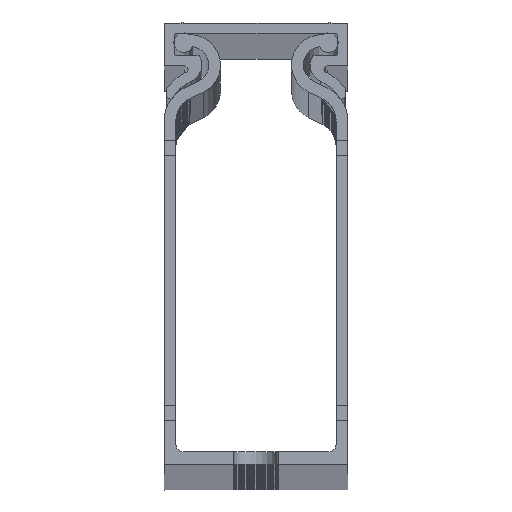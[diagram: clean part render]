
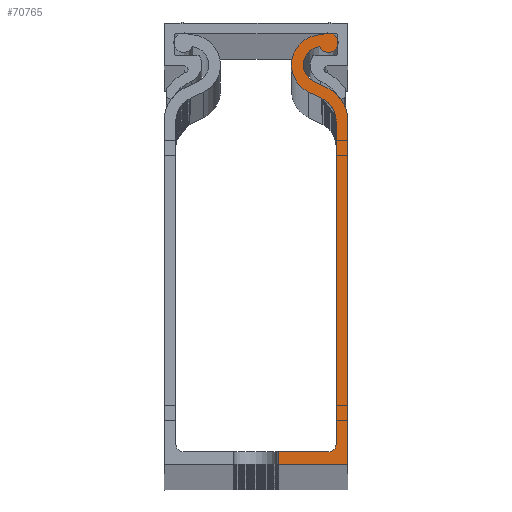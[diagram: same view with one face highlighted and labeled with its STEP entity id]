
A CAD part, top view. The second image highlights one B-rep face of the part: STEP entity #70765.
In plain terms, the highlighted planar face has unit normal (0, 0, 1).
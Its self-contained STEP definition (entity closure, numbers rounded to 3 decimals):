
#238 = DIRECTION ( 'NONE',  ( 1., 0., 0. ) ) ;
#1483 = AXIS2_PLACEMENT_3D ( 'NONE', #3519, #102852, #69095 ) ;
#1502 = VERTEX_POINT ( 'NONE', #23976 ) ;
#1551 = CARTESIAN_POINT ( 'NONE',  ( 2573.235, 1291.403, 2000. ) ) ;
#2018 = DIRECTION ( 'NONE',  ( 0.902, -0.431, 0. ) ) ;
#2724 = CARTESIAN_POINT ( 'NONE',  ( 2577.373, 1286.841, 2000. ) ) ;
#3519 = CARTESIAN_POINT ( 'NONE',  ( 2577.335, 1291.403, 2000. ) ) ;
#3797 = FACE_OUTER_BOUND ( 'NONE', #81246, .T. ) ;
#4263 = LINE ( 'NONE', #2724, #78614 ) ;
#4763 = CARTESIAN_POINT ( 'NONE',  ( 2578.062, 1288.285, 2000. ) ) ;
#5422 = ORIENTED_EDGE ( 'NONE', *, *, #10223, .T. ) ;
#5619 = CARTESIAN_POINT ( 'NONE',  ( 2575.907, 1283.773, 2000. ) ) ;
#6375 = LINE ( 'NONE', #23353, #25604 ) ;
#6883 = VERTEX_POINT ( 'NONE', #68955 ) ;
#10223 = EDGE_CURVE ( 'NONE', #105754, #69220, #44286, .T. ) ;
#11510 = ORIENTED_EDGE ( 'NONE', *, *, #66183, .F. ) ;
#12674 = DIRECTION ( 'NONE',  ( 0., 0., -1. ) ) ;
#12683 = ORIENTED_EDGE ( 'NONE', *, *, #102379, .T. ) ;
#13417 = CARTESIAN_POINT ( 'NONE',  ( 2571.407, 1237.056, 2000. ) ) ;
#14225 = PLANE ( 'NONE',  #50632 ) ;
#18716 = EDGE_CURVE ( 'NONE', #37755, #1502, #92772, .T. ) ;
#21494 = LINE ( 'NONE', #88894, #93304 ) ;
#22397 = EDGE_CURVE ( 'NONE', #80932, #35489, #94550, .T. ) ;
#23353 = CARTESIAN_POINT ( 'NONE',  ( 2580.907, 1283.773, 2000. ) ) ;
#23777 = CIRCLE ( 'NONE', #43851, 1.35 ) ;
#23976 = CARTESIAN_POINT ( 'NONE',  ( 2574.835, 1291.403, 2000. ) ) ;
#25604 = VECTOR ( 'NONE', #79642, 1000. ) ;
#25955 = DIRECTION ( 'NONE',  ( 0., 0., -1. ) ) ;
#27170 = DIRECTION ( 'NONE',  ( 0., 1., 0. ) ) ;
#27976 = CARTESIAN_POINT ( 'NONE',  ( 2575.568, 1287.703, 2000. ) ) ;
#27997 = CARTESIAN_POINT ( 'NONE',  ( 2577.373, 1286.841, 2000. ) ) ;
#28288 = VERTEX_POINT ( 'NONE', #36579 ) ;
#28486 = VERTEX_POINT ( 'NONE', #87517 ) ;
#31145 = CARTESIAN_POINT ( 'NONE',  ( 2578.257, 1294.406, 2000. ) ) ;
#32113 = CARTESIAN_POINT ( 'NONE',  ( 2577.335, 1291.403, 2000. ) ) ;
#32295 = CIRCLE ( 'NONE', #39765, 4.1 ) ;
#32473 = DIRECTION ( 'NONE',  ( 1., 0., 0. ) ) ;
#33490 = CARTESIAN_POINT ( 'NONE',  ( 2580.907, 1283.773, 2000. ) ) ;
#35489 = VERTEX_POINT ( 'NONE', #44723 ) ;
#35610 = CARTESIAN_POINT ( 'NONE',  ( 2577.467, 1295.501, 2000. ) ) ;
#35825 = CARTESIAN_POINT ( 'NONE',  ( 2571.407, 1238.756, 2000. ) ) ;
#36579 = CARTESIAN_POINT ( 'NONE',  ( 2579.307, 1239.756, 2000. ) ) ;
#37579 = EDGE_CURVE ( 'NONE', #28288, #28486, #77684, .T. ) ;
#37755 = VERTEX_POINT ( 'NONE', #94830 ) ;
#39765 = AXIS2_PLACEMENT_3D ( 'NONE', #54975, #68518, #101562 ) ;
#40820 = DIRECTION ( 'NONE',  ( 0., 0., 1. ) ) ;
#42841 = EDGE_CURVE ( 'NONE', #101628, #105754, #32295, .T. ) ;
#43851 = AXIS2_PLACEMENT_3D ( 'NONE', #31145, #40820, #56320 ) ;
#44065 = CARTESIAN_POINT ( 'NONE',  ( 2576.258, 1289.147, 2000. ) ) ;
#44286 = CIRCLE ( 'NONE', #95828, 4.1 ) ;
#44723 = CARTESIAN_POINT ( 'NONE',  ( 2580.907, 1237.056, 2000. ) ) ;
#45264 = DIRECTION ( 'NONE',  ( 1., 0., 0. ) ) ;
#46930 = ORIENTED_EDGE ( 'NONE', *, *, #85469, .T. ) ;
#47285 = EDGE_CURVE ( 'NONE', #77531, #101628, #23777, .T. ) ;
#48095 = CARTESIAN_POINT ( 'NONE',  ( 2577.013, 1293.882, 2000. ) ) ;
#48461 = CARTESIAN_POINT ( 'NONE',  ( 2575.907, 1283.773, 2000. ) ) ;
#48736 = VECTOR ( 'NONE', #27170, 1000. ) ;
#48767 = EDGE_CURVE ( 'NONE', #28486, #89606, #75576, .T. ) ;
#50414 = ORIENTED_EDGE ( 'NONE', *, *, #96537, .T. ) ;
#50632 = AXIS2_PLACEMENT_3D ( 'NONE', #5619, #63606, #87709 ) ;
#52695 = DIRECTION ( 'NONE',  ( -0.902, 0.431, 0. ) ) ;
#53837 = DIRECTION ( 'NONE',  ( 1., 0., 0. ) ) ;
#53901 = CIRCLE ( 'NONE', #84976, 5. ) ;
#54975 = CARTESIAN_POINT ( 'NONE',  ( 2577.335, 1291.403, 2000. ) ) ;
#56320 = DIRECTION ( 'NONE',  ( 1., 0., 0. ) ) ;
#56386 = LINE ( 'NONE', #44065, #97454 ) ;
#58274 = ORIENTED_EDGE ( 'NONE', *, *, #18716, .T. ) ;
#60246 = DIRECTION ( 'NONE',  ( -1., 0., 0. ) ) ;
#61489 = AXIS2_PLACEMENT_3D ( 'NONE', #83677, #25955, #91607 ) ;
#61592 = ORIENTED_EDGE ( 'NONE', *, *, #42841, .T. ) ;
#62625 = ORIENTED_EDGE ( 'NONE', *, *, #48767, .T. ) ;
#63100 = ORIENTED_EDGE ( 'NONE', *, *, #87432, .T. ) ;
#63606 = DIRECTION ( 'NONE',  ( 0., 0., 1. ) ) ;
#65137 = DIRECTION ( 'NONE',  ( 0., -1., 0. ) ) ;
#65665 = VERTEX_POINT ( 'NONE', #27997 ) ;
#66183 = EDGE_CURVE ( 'NONE', #80932, #89606, #92394, .T. ) ;
#68518 = DIRECTION ( 'NONE',  ( 0., 0., 1. ) ) ;
#68955 = CARTESIAN_POINT ( 'NONE',  ( 2579.307, 1283.757, 2000. ) ) ;
#69095 = DIRECTION ( 'NONE',  ( 1., 0., 0. ) ) ;
#69220 = VERTEX_POINT ( 'NONE', #27976 ) ;
#70234 = DIRECTION ( 'NONE',  ( 0., 0., -1. ) ) ;
#70600 = CARTESIAN_POINT ( 'NONE',  ( 2577.335, 1291.403, 2000. ) ) ;
#70765 = ADVANCED_FACE ( 'NONE', ( #3797 ), #14225, .T. ) ;
#71748 = VECTOR ( 'NONE', #60246, 1000. ) ;
#73579 = ORIENTED_EDGE ( 'NONE', *, *, #85713, .T. ) ;
#75576 = LINE ( 'NONE', #85754, #71748 ) ;
#77531 = VERTEX_POINT ( 'NONE', #48095 ) ;
#77684 = CIRCLE ( 'NONE', #61489, 1. ) ;
#78229 = CARTESIAN_POINT ( 'NONE',  ( 2575.907, 1283.773, 2000. ) ) ;
#78614 = VECTOR ( 'NONE', #2018, 1000. ) ;
#79642 = DIRECTION ( 'NONE',  ( 0., 1., 0. ) ) ;
#80651 = EDGE_CURVE ( 'NONE', #6883, #28288, #21494, .T. ) ;
#80716 = DIRECTION ( 'NONE',  ( 0., 0., 1. ) ) ;
#80932 = VERTEX_POINT ( 'NONE', #13417 ) ;
#81246 = EDGE_LOOP ( 'NONE', ( #11510, #99522, #73579, #50414, #63100, #58274, #12683, #85142, #61592, #5422, #82993, #46930, #100188, #106243, #62625 ) ) ;
#82993 = ORIENTED_EDGE ( 'NONE', *, *, #91972, .T. ) ;
#83503 = CARTESIAN_POINT ( 'NONE',  ( 2571.407, 1283.773, 2000. ) ) ;
#83677 = CARTESIAN_POINT ( 'NONE',  ( 2578.307, 1239.756, 2000. ) ) ;
#84976 = AXIS2_PLACEMENT_3D ( 'NONE', #48461, #80716, #89713 ) ;
#85142 = ORIENTED_EDGE ( 'NONE', *, *, #47285, .T. ) ;
#85469 = EDGE_CURVE ( 'NONE', #65665, #6883, #88498, .T. ) ;
#85713 = EDGE_CURVE ( 'NONE', #35489, #87883, #6375, .T. ) ;
#85754 = CARTESIAN_POINT ( 'NONE',  ( 2578.307, 1238.756, 2000. ) ) ;
#87432 = EDGE_CURVE ( 'NONE', #94238, #37755, #56386, .T. ) ;
#87517 = CARTESIAN_POINT ( 'NONE',  ( 2578.307, 1238.756, 2000. ) ) ;
#87709 = DIRECTION ( 'NONE',  ( 1., 0., 0. ) ) ;
#87883 = VERTEX_POINT ( 'NONE', #33490 ) ;
#88498 = CIRCLE ( 'NONE', #97869, 3.4 ) ;
#88894 = CARTESIAN_POINT ( 'NONE',  ( 2579.307, 1239.756, 2000. ) ) ;
#89606 = VERTEX_POINT ( 'NONE', #35825 ) ;
#89713 = DIRECTION ( 'NONE',  ( 1., 0., 0. ) ) ;
#90029 = CIRCLE ( 'NONE', #94748, 2.5 ) ;
#91607 = DIRECTION ( 'NONE',  ( 1., 0., 0. ) ) ;
#91972 = EDGE_CURVE ( 'NONE', #69220, #65665, #4263, .T. ) ;
#92394 = LINE ( 'NONE', #83503, #48736 ) ;
#92772 = CIRCLE ( 'NONE', #1483, 2.5 ) ;
#93304 = VECTOR ( 'NONE', #65137, 1000. ) ;
#94238 = VERTEX_POINT ( 'NONE', #4763 ) ;
#94550 = LINE ( 'NONE', #97834, #95773 ) ;
#94748 = AXIS2_PLACEMENT_3D ( 'NONE', #70600, #70234, #53837 ) ;
#94830 = CARTESIAN_POINT ( 'NONE',  ( 2576.258, 1289.147, 2000. ) ) ;
#95773 = VECTOR ( 'NONE', #238, 1000. ) ;
#95828 = AXIS2_PLACEMENT_3D ( 'NONE', #32113, #106087, #32473 ) ;
#96537 = EDGE_CURVE ( 'NONE', #87883, #94238, #53901, .T. ) ;
#97454 = VECTOR ( 'NONE', #52695, 1000. ) ;
#97834 = CARTESIAN_POINT ( 'NONE',  ( 2555.907, 1237.056, 2000. ) ) ;
#97869 = AXIS2_PLACEMENT_3D ( 'NONE', #78229, #12674, #45264 ) ;
#99522 = ORIENTED_EDGE ( 'NONE', *, *, #22397, .T. ) ;
#100188 = ORIENTED_EDGE ( 'NONE', *, *, #80651, .T. ) ;
#101562 = DIRECTION ( 'NONE',  ( 1., 0., 0. ) ) ;
#101628 = VERTEX_POINT ( 'NONE', #35610 ) ;
#102379 = EDGE_CURVE ( 'NONE', #1502, #77531, #90029, .T. ) ;
#102852 = DIRECTION ( 'NONE',  ( 0., 0., -1. ) ) ;
#105754 = VERTEX_POINT ( 'NONE', #1551 ) ;
#106087 = DIRECTION ( 'NONE',  ( 0., 0., 1. ) ) ;
#106243 = ORIENTED_EDGE ( 'NONE', *, *, #37579, .T. ) ;
